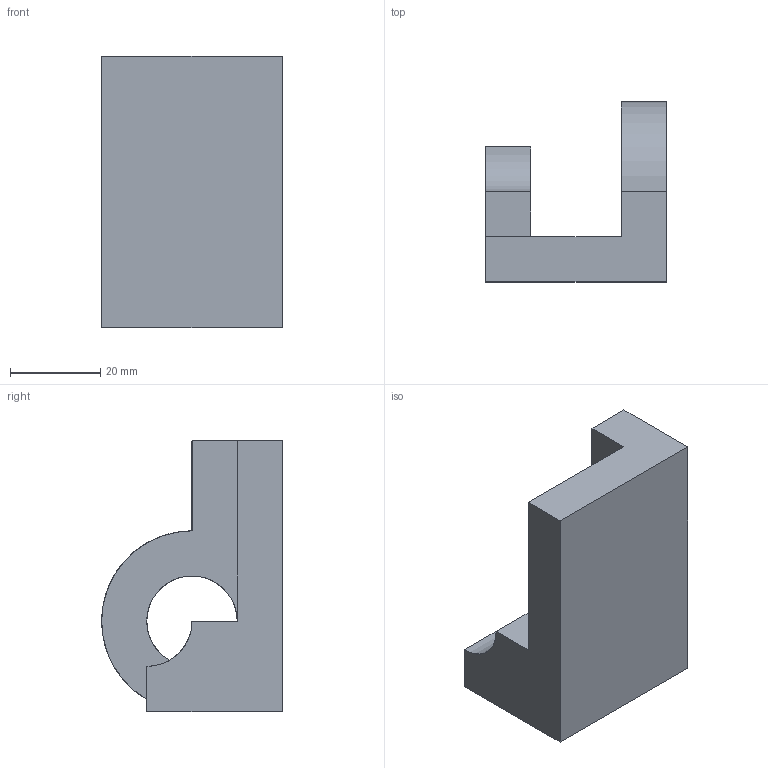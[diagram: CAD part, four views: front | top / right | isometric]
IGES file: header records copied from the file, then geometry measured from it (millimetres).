
Start section: SolidWorks IGES file using analytic representation for surfaces
Global section: file name: C:\Users\Ever Ortega Calderón\Documents\TEC\II S 2022\Física Computacional II\SOLID WORKS\Tarea 1\Ejercicio 3.IGS; native system: SolidWorks 2022; preprocessor: SolidWorks 2022; author: Ever Ortega Calderón; date: 220817.010702; units: millimetre
Bounding box: 40 x 40 x 60 mm (x, y, z)
Surface area: 10684.9 mm2 (no closed solid volume)
Topology: 0 solids, 0 shells, 15 faces, 217 edges, 216 vertices
Faces by surface type: bspline 11, revolution 4
